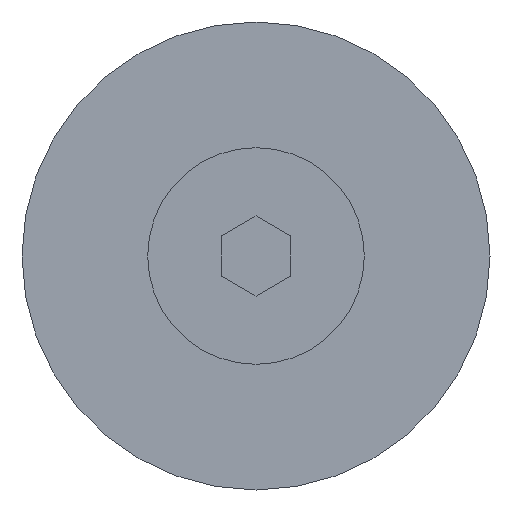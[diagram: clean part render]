
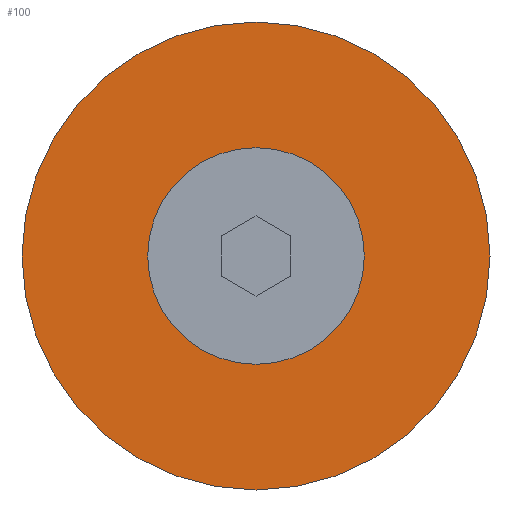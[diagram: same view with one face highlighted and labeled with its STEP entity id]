
A CAD part, front view. The second image highlights one B-rep face of the part: STEP entity #100.
In plain terms, the highlighted planar face has unit normal (0, -1, 0).
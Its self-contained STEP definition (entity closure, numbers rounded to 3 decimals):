
#100=ADVANCED_FACE('',(#179,#180),#181,.F.);
#179=FACE_OUTER_BOUND('',#287,.T.);
#180=FACE_BOUND('',#288,.T.);
#181=PLANE('',#289);
#287=EDGE_LOOP('',(#529,#530));
#288=EDGE_LOOP('',(#531,#532));
#289=AXIS2_PLACEMENT_3D('',#533,#534,#535);
#529=ORIENTED_EDGE('',*,*,#731,.T.);
#530=ORIENTED_EDGE('',*,*,#757,.T.);
#531=ORIENTED_EDGE('',*,*,#759,.F.);
#532=ORIENTED_EDGE('',*,*,#725,.F.);
#533=CARTESIAN_POINT('',(-21.5,-14.0,0.0));
#534=DIRECTION('',(-0.0,1.0,0.0));
#535=DIRECTION('',(1.0,0.0,0.0));
#725=EDGE_CURVE('',#842,#845,#846,.T.);
#731=EDGE_CURVE('',#851,#855,#857,.T.);
#757=EDGE_CURVE('',#855,#851,#897,.T.);
#759=EDGE_CURVE('',#845,#842,#899,.T.);
#842=VERTEX_POINT('',#1032);
#845=VERTEX_POINT('',#1036);
#846=CIRCLE('',#1037,12.5);
#851=VERTEX_POINT('',#1043);
#855=VERTEX_POINT('',#1048);
#857=CIRCLE('',#1051,27.0);
#897=CIRCLE('',#1101,27.0);
#899=CIRCLE('',#1103,12.5);
#1032=CARTESIAN_POINT('',(5.5,-14.0,-12.5));
#1036=CARTESIAN_POINT('',(5.5,-14.0,12.5));
#1037=AXIS2_PLACEMENT_3D('',#1307,#1308,#1309);
#1043=CARTESIAN_POINT('',(5.5,-14.0,-27.0));
#1048=CARTESIAN_POINT('',(5.5,-14.0,27.0));
#1051=AXIS2_PLACEMENT_3D('',#1319,#1320,#1321);
#1101=AXIS2_PLACEMENT_3D('',#1377,#1378,#1379);
#1103=AXIS2_PLACEMENT_3D('',#1383,#1384,#1385);
#1307=CARTESIAN_POINT('',(5.5,-14.0,0.0));
#1308=DIRECTION('',(0.0,-1.0,0.0));
#1309=DIRECTION('',(0.0,0.0,-1.0));
#1319=CARTESIAN_POINT('',(5.5,-14.0,0.0));
#1320=DIRECTION('',(0.0,-1.0,0.0));
#1321=DIRECTION('',(0.0,0.0,-1.0));
#1377=CARTESIAN_POINT('',(5.5,-14.0,0.0));
#1378=DIRECTION('',(0.0,-1.0,0.0));
#1379=DIRECTION('',(0.0,0.0,-1.0));
#1383=CARTESIAN_POINT('',(5.5,-14.0,0.0));
#1384=DIRECTION('',(0.0,-1.0,0.0));
#1385=DIRECTION('',(0.0,0.0,-1.0));
